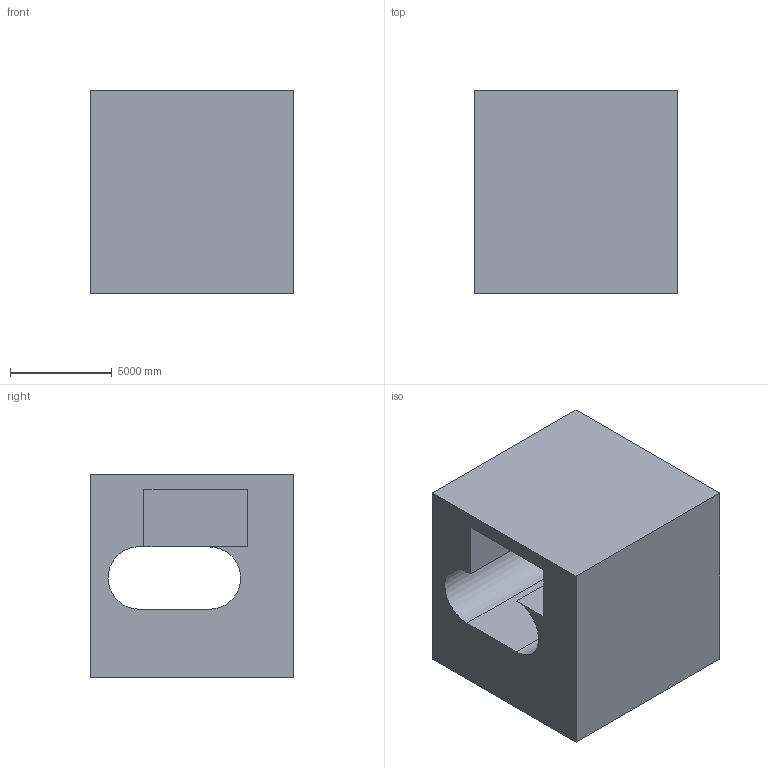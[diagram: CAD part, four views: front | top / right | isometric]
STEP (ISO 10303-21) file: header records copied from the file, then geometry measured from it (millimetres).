
FILE_DESCRIPTION (( 'STEP AP203' ), '1' );
FILE_NAME ('8.STEP', '2022-08-31T11:08:41', ( 'user' ), ( '' ), 'SwSTEP 2.0', 'SolidWorks 2021', '' );
FILE_SCHEMA (( 'CONFIG_CONTROL_DESIGN' ));
Length unit declared in the file: centimetre
Products named in the file (1): 8
Bounding box: 10000 x 10000 x 10000 mm (x, y, z)
Volume: 697618073245.6 mm3; surface area: 809195652.1 mm2
Topology: 1 solids, 1 shells, 15 faces, 38 edges, 25 vertices
Faces by surface type: plane 13, cylinder 2
Entity records: 529 total; most frequent: CARTESIAN_POINT 79, ORIENTED_EDGE 76, DIRECTION 74, EDGE_CURVE 38, LINE 34, VECTOR 34, VERTEX_POINT 25, AXIS2_PLACEMENT_3D 20
